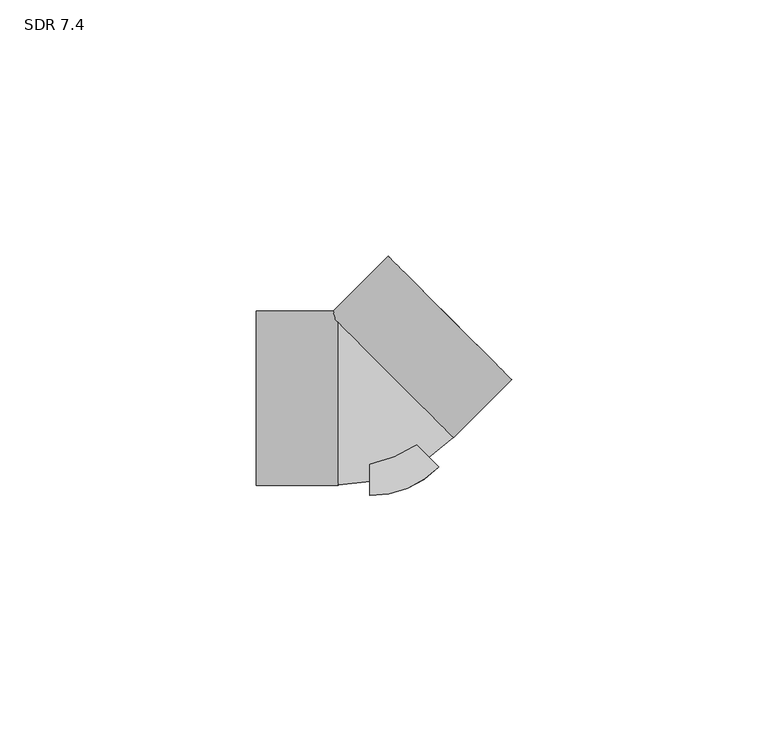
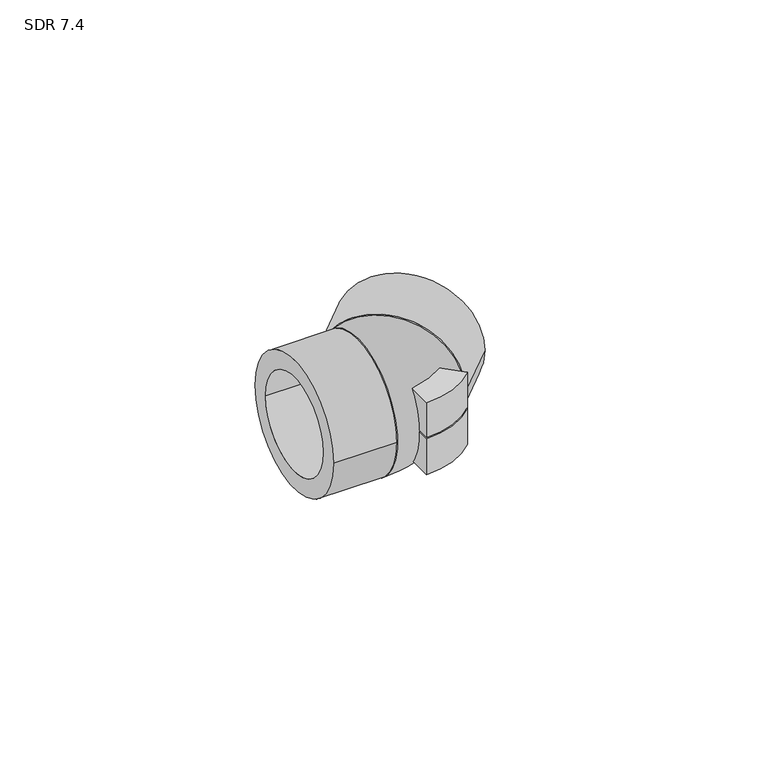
"""IFC4 building model written with IfcOpenShell, lengths in millimetres: pipe fitting geometry, Aquatherm - Elbow Socket : SDR 7.4."""

from ifc_helpers import new_model, si_unit, point, frame, origin, origin_with_axes, origin_2d, place, context, project, spatial, polyline, circle_curve, ellipse_curve, trimmed, segment, composite_curve, outline, extrude, source, transform, mapped, element, save
from ifc_brep_helpers import plane_surface, revolved_surface, advanced_brep


def sdr_7_4_8b3dcbc2(model_context):
    return source(origin(), model_context, "Body", "SolidModel", [
        extrude(outline(composite_curve([segment(polyline([(0.0, -19.05), (0.0, 0.0), (13.4703842, -13.4703842)]), True, "CONTINUOUS"), segment(trimmed(circle_curve(origin_2d(), 19.05), [point((13.4703842, -13.4703842))], [point((0.0, -19.05))], False, "CARTESIAN"), True, "CONTINUOUS")], self_intersect=False)), frame((0.0, 0.0, -9.525), z_axis=(0.0, 0.0, 1.0), x_axis=(1.0, 0.0, 0.0)), (0.0, 0.0, 1.0), 9.525),
        extrude(outline(composite_curve([segment(trimmed(circle_curve(origin_2d(), 19.05), [point((13.4703842, -13.4703842))], [point((0.0, -19.05))], False, "CARTESIAN"), True, "CONTINUOUS"), segment(polyline([(0.0, -19.05), (0.0, 0.0), (13.4703842, -13.4703842)]), True, "CONTINUOUS")], self_intersect=False)), origin_with_axes(), (0.0, 0.0, 1.0), 9.525),
        extrude(outline(composite_curve([segment(trimmed(circle_curve(origin_2d(), 17.018), [point((0.0, 17.018))], [point((0.0, -17.018))], False, "CARTESIAN"), True, "CONTINUOUS"), segment(trimmed(circle_curve(origin_2d(), 17.018), [point((0.0, -17.018))], [point((0.0, 17.018))], False, "CARTESIAN"), True, "CONTINUOUS")], self_intersect=False), holes=[composite_curve([segment(trimmed(circle_curve(origin_2d(), 12.446), [point((0.0, 12.446))], [point((0.0, -12.446))], True, "CARTESIAN"), True, "CONTINUOUS"), segment(trimmed(circle_curve(origin_2d(), 12.446), [point((0.0, -12.446))], [point((0.0, 12.446))], True, "CARTESIAN"), True, "CONTINUOUS")], self_intersect=False)]), frame((4.3105229, 4.3105229, 0.0), z_axis=(0.7071067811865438, 0.7071067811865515, 0.0), x_axis=(0.0, 0.0, 1.0)), (0.0, 0.0, 1.0), 16.002),
        advanced_brep(
        [(-6.096, 14.7170459, -8.5452258), (-6.096, 14.7170459, 8.5452258), (-6.096, -8.9887778, 0.0), (-6.096, 8.9887778, 0.0), (10.6665487, -2.0455028, 0.0), (-2.0455028, 10.6665487, 0.0)],
        [
            (0, 1, circle_curve(frame((-6.096, 0.0, 0.0), z_axis=(-1.0, 0.0, 0.0), x_axis=(0.0, 1.0, 0.0)), 17.018)),
            (1, 0),
            (2, 3, circle_curve(frame((-6.096, 0.0, 0.0), z_axis=(1.0, 0.0, 0.0), x_axis=(0.0, 1.0, 0.0)), 8.9887778)),
            (3, 2, circle_curve(frame((-6.096, 0.0, 0.0), z_axis=(1.0, 0.0, 0.0), x_axis=(0.0, 1.0, 0.0)), 8.9887778)),
            (1, 0, circle_curve(frame((4.3105229, 4.3105229, 0.0), z_axis=(0.7071067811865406, 0.7071067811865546, 0.0), x_axis=(-0.7071067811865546, 0.7071067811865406, 0.0)), 17.018)),
            (4, 5, circle_curve(frame((4.3105229, 4.3105229, 0.0), z_axis=(-0.7071067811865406, -0.7071067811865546, 0.0), x_axis=(-0.7071067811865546, 0.7071067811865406, 0.0)), 8.9887778)),
            (5, 4, circle_curve(frame((4.3105229, 4.3105229, 0.0), z_axis=(-0.7071067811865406, -0.7071067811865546, 0.0), x_axis=(-0.7071067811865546, 0.7071067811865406, 0.0)), 8.9887778)),
            (5, 3, circle_curve(frame((-6.096, 14.7170459, 0.0), z_axis=(0.0, 0.0, -1.0), x_axis=(0.0, -1.0, 0.0)), 5.7282681)),
            (2, 4, circle_curve(frame((-6.096, 14.7170459, 0.0), z_axis=(0.0, 0.0, 1.0), x_axis=(0.0, -1.0, 0.0)), 23.7058237)),
        ],
        [
            plane_surface(frame((-6.096, 14.7170459, 65.6952258), z_axis=(-1.0, 0.0, 0.0), x_axis=(0.0, -1.0, 0.0))),
            plane_surface(frame((-6.096, 14.7170459, 65.6952258), z_axis=(0.7071067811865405, 0.7071067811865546, 0.0), x_axis=(0.7071067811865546, -0.7071067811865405, 0.0))),
            revolved_surface(trimmed(ellipse_curve(frame((-6.096, 0.0, 0.0), z_axis=(1.0, 0.0, 0.0), x_axis=(0.0, 1.0, 0.0)), 17.018, 17.018), [point((-6.096, 14.7170459, 8.5452258))], [point((-6.096, 14.7170459, -8.5452258))], True, "CARTESIAN"), (-6.096, 14.7170459, 65.6952258), (0.0, 0.0, -1.0)),
            revolved_surface(trimmed(ellipse_curve(frame((-6.096, 0.0, 0.0), z_axis=(-1.0, 0.0, 0.0), x_axis=(0.0, 1.0, 0.0)), 8.9887778, 8.9887778), [point((-6.096, 8.9887778, 0.0))], [point((-6.096, -8.9887778, 0.0))], True, "CARTESIAN"), (-6.096, 14.7170459, 65.6952258), (0.0, 0.0, -1.0)),
            revolved_surface(trimmed(ellipse_curve(frame((-6.096, 0.0, 0.0), z_axis=(-1.0, 0.0, 0.0), x_axis=(0.0, 1.0, 0.0)), 8.9887778, 8.9887778), [point((-6.096, -8.9887778, 0.0))], [point((-6.096, 8.9887778, 0.0))], True, "CARTESIAN"), (-6.096, 14.7170459, 65.6952258), (0.0, 0.0, -1.0)),
        ],
        [
            (0, [[1, 2], [3, 4]]),
            (1, [[5, -2], [6, 7]]),
            (2, [[-1, -5]]),
            (3, [[8, -3, 9, -7]]),
            (4, [[-9, -4, -8, -6]]),
        ],
    ),
        extrude(outline(composite_curve([segment(trimmed(circle_curve(origin_2d(), 17.018), [point((17.018, 0.0))], [point((-17.018, 0.0))], False, "CARTESIAN"), True, "CONTINUOUS"), segment(trimmed(circle_curve(origin_2d(), 17.018), [point((-17.018, 0.0))], [point((17.018, 0.0))], False, "CARTESIAN"), True, "CONTINUOUS")], self_intersect=False), holes=[composite_curve([segment(trimmed(circle_curve(origin_2d(), 12.446), [point((12.446, 0.0))], [point((-12.446, 0.0))], True, "CARTESIAN"), True, "CONTINUOUS"), segment(trimmed(circle_curve(origin_2d(), 12.446), [point((-12.446, 0.0))], [point((12.446, 0.0))], True, "CARTESIAN"), True, "CONTINUOUS")], self_intersect=False)]), frame((-22.098, 0.0, 0.0), z_axis=(1.0, 0.0, 0.0), x_axis=(0.0, 1.0, 0.0)), (0.0, 0.0, 1.0), 16.002),
    ])


if __name__ == "__main__":
    model = new_model("IFC4")
    model_context = context("Model", 3, world=origin())
    ifc_project = project(units=[si_unit("LENGTHUNIT", "METRE", prefix="MILLI")], contexts=[model_context])
    site = spatial("IfcSite", under=ifc_project)
    building = spatial("IfcBuilding", under=site)
    placement = place(None, origin())
    sdr_7_4_shape = sdr_7_4_8b3dcbc2(model_context)
    element("IfcPipeFitting", 1, ObjectType="Aquatherm - Elbow Socket : SDR 7.4", at=placement, inside=building, context=model_context, shape_type="MappedRepresentation", body=[
        mapped(sdr_7_4_shape, transform((0.0, 0.0, 0.0), x_axis=(1.0, 0.0, 0.0), y_axis=(0.0, 1.0, 0.0), z_axis=(0.0, 0.0, 1.0))),
    ])
    save(model, "model.ifc")
